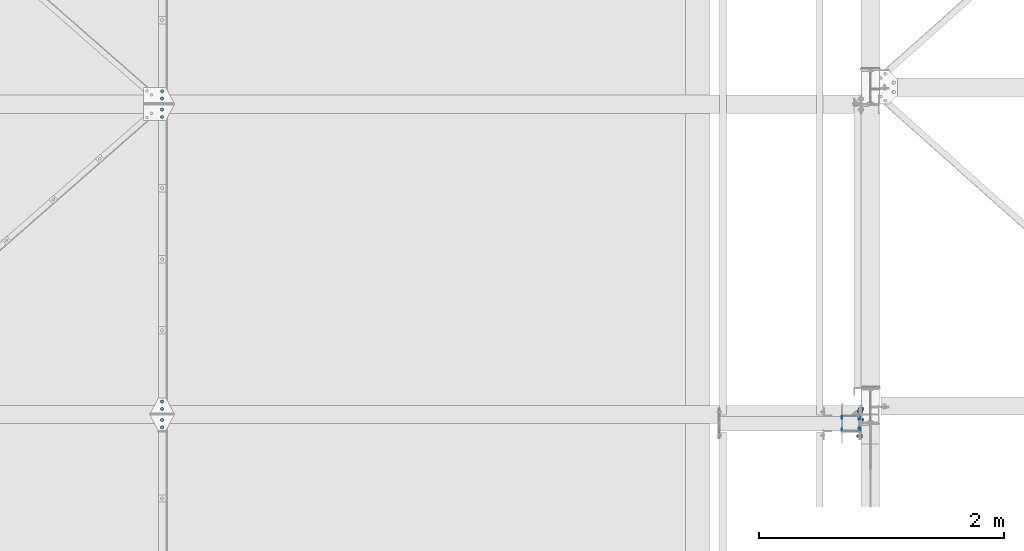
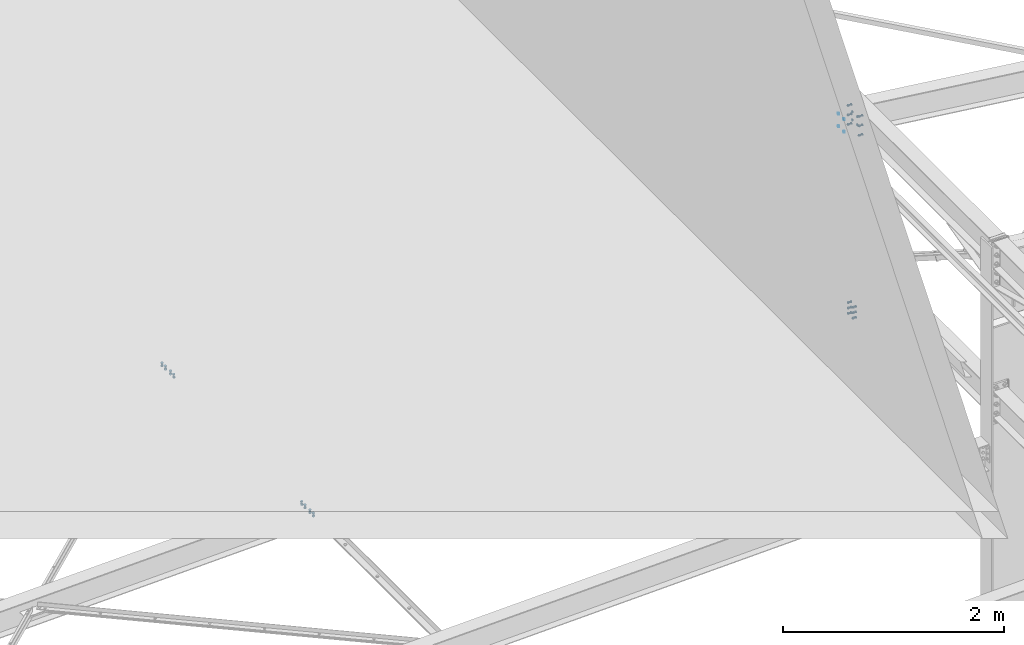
# One storey, part 95 of 3134: 9 mechanical fasteners, 6 elements without a shape of their own.
"""IFC2X3 building model written with IfcOpenShell, lengths in millimetres."""

from ifc_helpers import new_model, si_unit, frame, origin_with_axes, place, context, subcontext, project, spatial, faceted_brep, source, transform, mapped, material, type_object, element, aggregate, save


model = new_model("IFC2X3")

# Units and contexts
model_context = context("Model", 3, precision=1e-05, world=origin_with_axes())
body_context = subcontext(model_context, "Body", "Model", "MODEL_VIEW")
ifc_project = project(units=[si_unit("LENGTHUNIT", "METRE", prefix="MILLI"), si_unit("AREAUNIT", "SQUARE_METRE"), si_unit("VOLUMEUNIT", "CUBIC_METRE"), si_unit("MASSUNIT", "GRAM", prefix="KILO"), si_unit("TIMEUNIT", "SECOND"), si_unit("PLANEANGLEUNIT", "RADIAN"), si_unit("SOLIDANGLEUNIT", "STERADIAN"), si_unit("THERMODYNAMICTEMPERATUREUNIT", "DEGREE_CELSIUS"), si_unit("LUMINOUSINTENSITYUNIT", "LUMEN")], contexts=[model_context])

# Site, building, storey
site_placement = place(None, origin_with_axes())
site = spatial("IfcSite", under=ifc_project, at=site_placement, CompositionType="ELEMENT")
building_placement = place(site_placement, origin_with_axes())
building = spatial("IfcBuilding", under=site, at=building_placement, Name="Undefined", CompositionType="ELEMENT")
storey_placement = place(building_placement, origin_with_axes())
storey = spatial("IfcBuildingStorey", under=building, at=storey_placement, Name="Undefined", CompositionType="ELEMENT", Elevation=0.0)

# Assembly, mechanical fasteners
assembly_1_placement = place(storey_placement, origin_with_axes())
assembly_1 = element("IfcElementAssembly", 1, at=assembly_1_placement, inside=storey, AssemblyPlace="NOTDEFINED", PredefinedType="RIGID_FRAME")
ifc_material = material(Name="8.8")
mechanical_fastener_type = type_object("IfcMechanicalFastenerType", Name="Bolt assembly")
shared_shape_1 = source(origin_with_axes(), body_context, "Body", "Brep", [
    faceted_brep([(9.0, -3.46568413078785e-07, 0.0), (7.79422863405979, -3.46568413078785e-07, 4.50000000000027), (4.49999999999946, -3.46568413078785e-07, 7.79422863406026), (-9.3270238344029e-13, -3.46568413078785e-07, 9.0), (-4.50000000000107, -3.46568413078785e-07, 7.79422863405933), (-7.79422863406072, -3.46568413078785e-07, 4.49999999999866), (-9.0, -3.46568413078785e-07, -1.86540476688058e-12), (-7.79422863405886, -3.46568413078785e-07, -4.50000000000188), (-4.49999999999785, -3.46568413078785e-07, -7.79422863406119), (2.78811514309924e-12, -3.46568413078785e-07, -9.0), (4.50000000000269, -3.46568413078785e-07, -7.7942286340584), (7.79422863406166, -3.46568413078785e-07, -4.49999999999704), (7.79422863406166, 6.1, -4.49999999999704), (4.50000000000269, 6.1, -7.7942286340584), (2.78811514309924e-12, 6.1, -9.0), (-4.49999999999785, 6.1, -7.79422863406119), (-7.79422863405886, 6.1, -4.50000000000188), (-9.0, 6.1, -1.86540476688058e-12), (-7.79422863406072, 6.1, 4.49999999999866), (-4.50000000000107, 6.1, 7.79422863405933), (-9.3270238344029e-13, 6.1, 9.0), (4.49999999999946, 6.1, 7.79422863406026), (7.79422863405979, 6.1, 4.50000000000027), (9.0, 6.1, 0.0)], [[[0, 1, 2, 3, 4, 5, 6, 7, 8, 9, 10, 11]], [[12, 13, 14, 15, 16, 17, 18, 19, 20, 21, 22, 23]], [[0, 23, 22, 1]], [[1, 22, 21, 2]], [[2, 21, 20, 3]], [[3, 20, 19, 4]], [[4, 19, 18, 5]], [[5, 18, 17, 6]], [[6, 17, 16, 7]], [[7, 16, 15, 8]], [[8, 15, 14, 9]], [[9, 14, 13, 10]], [[10, 13, 12, 11]], [[11, 12, 23, 0]]]),
])
mechanical_fastener_1_placement = place(assembly_1_placement, frame((20615.0, 21956.5019072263, 5760.0), z_axis=(0.0, 0.0, 1.0), x_axis=(0.0, -1.0, 0.0)))
mechanical_fastener_1 = element("IfcMechanicalFastener", 2, at=mechanical_fastener_1_placement, type_object=mechanical_fastener_type, material=ifc_material, Name="Bolt assembly", NominalDiameter=16.0, NominalLength=6.0, context=body_context, shape_type="MappedRepresentation", body=[
    mapped(shared_shape_1, transform((0.0, 0.0, -70.0))),
    mapped(shared_shape_1, transform((100.0, 0.0, -70.0))),
    mapped(shared_shape_1, transform((0.0, 0.0, 70.0))),
    mapped(shared_shape_1, transform((100.0, 0.0, 70.0))),
])
shared_shape_2 = source(origin_with_axes(), body_context, "Body", "Brep", [
    faceted_brep([(11.0, 0.0, 0.0), (9.52627944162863, 0.0, 5.50000000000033), (5.49999999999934, 0.0, 9.5262794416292), (-1.13996957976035e-12, 0.0, 11.0), (-5.50000000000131, 0.0, 9.52627944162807), (-9.52627944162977, 0.0, 5.49999999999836), (-11.0, 0.0, -2.27993915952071e-12), (-9.5262794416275, 0.0, -5.5000000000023), (-5.49999999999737, 0.0, -9.52627944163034), (3.40769628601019e-12, 0.0, -11.0), (5.50000000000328, 0.0, -9.52627944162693), (9.52627944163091, 0.0, -5.49999999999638), (9.52627944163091, 10.1, -5.49999999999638), (5.50000000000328, 10.1, -9.52627944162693), (3.40769628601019e-12, 10.1, -11.0), (-5.49999999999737, 10.1, -9.52627944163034), (-9.5262794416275, 10.1, -5.5000000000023), (-11.0, 10.1, -2.27993915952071e-12), (-9.52627944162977, 10.1, 5.49999999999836), (-5.50000000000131, 10.1, 9.52627944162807), (-1.13996957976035e-12, 10.1, 11.0), (5.49999999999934, 10.1, 9.5262794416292), (9.52627944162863, 10.1, 5.50000000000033), (11.0, 10.1, 0.0)], [[[0, 1, 2, 3, 4, 5, 6, 7, 8, 9, 10, 11]], [[12, 13, 14, 15, 16, 17, 18, 19, 20, 21, 22, 23]], [[0, 23, 22, 1]], [[1, 22, 21, 2]], [[2, 21, 20, 3]], [[3, 20, 19, 4]], [[4, 19, 18, 5]], [[5, 18, 17, 6]], [[6, 17, 16, 7]], [[7, 16, 15, 8]], [[8, 15, 14, 9]], [[9, 14, 13, 10]], [[10, 13, 12, 11]], [[11, 12, 23, 0]]]),
])
mechanical_fastener_2_placement = place(assembly_1_placement, frame((20755.0, 21951.5019072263, 5760.0), z_axis=(0.0, 0.0, 1.0), x_axis=(0.0, -1.0, 0.0)))
mechanical_fastener_2 = element("IfcMechanicalFastener", 3, at=mechanical_fastener_2_placement, type_object=mechanical_fastener_type, material=ifc_material, Name="Bolt assembly", NominalDiameter=20.0, NominalLength=10.0, context=body_context, shape_type="MappedRepresentation", body=[
    mapped(shared_shape_2, transform((0.0, 0.0, -45.0))),
    mapped(shared_shape_2, transform((90.0, 0.0, -45.0))),
    mapped(shared_shape_2, transform((0.0, 0.0, 45.0))),
    mapped(shared_shape_2, transform((90.0, 0.0, 45.0))),
])
aggregate(assembly_1, [mechanical_fastener_2, mechanical_fastener_1])

# Assembly, mechanical fastener
assembly_2_placement = place(storey_placement, origin_with_axes())
assembly_2 = element("IfcElementAssembly", 4, at=assembly_2_placement, inside=storey, Name="300", AssemblyPlace="NOTDEFINED", PredefinedType="RIGID_FRAME")
shared_shape_3 = source(origin_with_axes(), body_context, "Body", "Brep", [
    faceted_brep([(13.856406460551, -30.0, 0.0), (6.92820323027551, -30.0, 12.0), (-6.92820323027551, -30.0, 12.0), (-13.856406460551, -30.0, 1.69692038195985e-15), (-6.92820323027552, -30.0, -12.0), (6.9282032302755, -30.0, -12.0), (6.9282032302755, -20.0, -12.0), (-6.92820323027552, -20.0, -12.0), (-13.856406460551, -20.0, 1.69692038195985e-15), (-6.92820323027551, -20.0, 12.0), (6.92820323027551, -20.0, 12.0), (13.856406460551, -20.0, 0.0), (8.0, -20.0, 0.0), (6.92820323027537, -20.0, 4.00000000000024), (3.99999999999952, -20.0, 6.92820323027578), (-8.29068785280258e-13, -20.0, 8.0), (-4.00000000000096, -20.0, 6.92820323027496), (-6.9282032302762, -20.0, 3.99999999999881), (-8.0, -20.0, -1.65813757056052e-12), (-6.92820323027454, -20.0, -4.00000000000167), (-3.99999999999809, -20.0, -6.92820323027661), (2.47832457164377e-12, -20.0, -8.0), (4.00000000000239, -20.0, -6.92820323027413), (6.92820323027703, -20.0, -3.99999999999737), (6.92820323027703, 20.0, -3.99999999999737), (4.00000000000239, 20.0, -6.92820323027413), (2.47832457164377e-12, 20.0, -8.0), (-3.99999999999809, 20.0, -6.92820323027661), (-6.92820323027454, 20.0, -4.00000000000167), (-8.0, 20.0, -1.65813757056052e-12), (-6.9282032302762, 20.0, 3.99999999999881), (-4.00000000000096, 20.0, 6.92820323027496), (-8.29068785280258e-13, 20.0, 8.0), (3.99999999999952, 20.0, 6.92820323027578), (6.92820323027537, 20.0, 4.00000000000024), (8.0, 20.0, 0.0), (13.856406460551, 0.0, 0.0), (6.92820323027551, 0.0, 12.0), (-6.92820323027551, 0.0, 12.0), (-13.856406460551, 0.0, 1.69692038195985e-15), (-6.92820323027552, 0.0, -12.0), (6.9282032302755, 0.0, -12.0), (6.9282032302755, 12.9999996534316, -12.0), (-6.92820323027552, 12.9999996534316, -12.0), (-13.856406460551, 12.9999996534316, 1.69692038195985e-15), (-6.92820323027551, 12.9999996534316, 12.0), (6.92820323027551, 12.9999996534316, 12.0), (13.856406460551, 12.9999996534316, 0.0)], [[[0, 1, 2, 3, 4, 5]], [[6, 7, 8, 9, 10, 11]], [[0, 11, 10, 1]], [[1, 10, 9, 2]], [[2, 9, 8, 3]], [[3, 8, 7, 4]], [[4, 7, 6, 5]], [[5, 6, 11, 0]], [[12, 13, 14, 15, 16, 17, 18, 19, 20, 21, 22, 23]], [[24, 25, 26, 27, 28, 29, 30, 31, 32, 33, 34, 35]], [[12, 35, 34, 13]], [[13, 34, 33, 14]], [[14, 33, 32, 15]], [[15, 32, 31, 16]], [[16, 31, 30, 17]], [[17, 30, 29, 18]], [[18, 29, 28, 19]], [[19, 28, 27, 20]], [[20, 27, 26, 21]], [[21, 26, 25, 22]], [[22, 25, 24, 23]], [[23, 24, 35, 12]], [[36, 37, 38, 39, 40, 41]], [[42, 43, 44, 45, 46, 47]], [[36, 47, 46, 37]], [[37, 46, 45, 38]], [[38, 45, 44, 39]], [[39, 44, 43, 40]], [[40, 43, 42, 41]], [[41, 42, 47, 36]]]),
    faceted_brep([(9.0, -10.1000003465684, 0.0), (7.79422863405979, -10.1000003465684, 4.50000000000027), (4.49999999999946, -10.1000003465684, 7.79422863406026), (-9.3270238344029e-13, -10.1000003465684, 9.0), (-4.50000000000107, -10.1000003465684, 7.79422863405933), (-7.79422863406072, -10.1000003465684, 4.49999999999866), (-9.0, -10.1000003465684, -1.86540476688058e-12), (-7.79422863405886, -10.1000003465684, -4.50000000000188), (-4.49999999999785, -10.1000003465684, -7.79422863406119), (2.78811514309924e-12, -10.1000003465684, -9.0), (4.50000000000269, -10.1000003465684, -7.7942286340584), (7.79422863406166, -10.1000003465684, -4.49999999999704), (7.79422863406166, -3.46568413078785e-07, -4.49999999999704), (4.50000000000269, -3.46568413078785e-07, -7.7942286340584), (2.78811514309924e-12, -3.46568413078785e-07, -9.0), (-4.49999999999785, -3.46568413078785e-07, -7.79422863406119), (-7.79422863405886, -3.46568413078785e-07, -4.50000000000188), (-9.0, -3.46568413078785e-07, -1.86540476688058e-12), (-7.79422863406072, -3.46568413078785e-07, 4.49999999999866), (-4.50000000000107, -3.46568413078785e-07, 7.79422863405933), (-9.3270238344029e-13, -3.46568413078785e-07, 9.0), (4.49999999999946, -3.46568413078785e-07, 7.79422863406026), (7.79422863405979, -3.46568413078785e-07, 4.50000000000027), (9.0, -3.46568413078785e-07, 0.0), (9.0, -19.9, 0.0), (7.79422863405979, -19.9, 4.50000000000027), (4.49999999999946, -19.9, 7.79422863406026), (-9.3270238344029e-13, -19.9, 9.0), (-4.50000000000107, -19.9, 7.79422863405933), (-7.79422863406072, -19.9, 4.49999999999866), (-9.0, -19.9, -1.86540476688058e-12), (-7.79422863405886, -19.9, -4.50000000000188), (-4.49999999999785, -19.9, -7.79422863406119), (2.78811514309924e-12, -19.9, -9.0), (4.50000000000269, -19.9, -7.7942286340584), (7.79422863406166, -19.9, -4.49999999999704), (7.79422863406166, -9.89999997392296, -4.49999999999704), (4.50000000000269, -9.89999997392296, -7.7942286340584), (2.78811514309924e-12, -9.89999997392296, -9.0), (-4.49999999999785, -9.89999997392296, -7.79422863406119), (-7.79422863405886, -9.89999997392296, -4.50000000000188), (-9.0, -9.89999997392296, -1.86540476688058e-12), (-7.79422863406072, -9.89999997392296, 4.49999999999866), (-4.50000000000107, -9.89999997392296, 7.79422863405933), (-9.3270238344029e-13, -9.89999997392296, 9.0), (4.49999999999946, -9.89999997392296, 7.79422863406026), (7.79422863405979, -9.89999997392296, 4.50000000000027), (9.0, -9.89999997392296, 0.0)], [[[0, 1, 2, 3, 4, 5, 6, 7, 8, 9, 10, 11]], [[12, 13, 14, 15, 16, 17, 18, 19, 20, 21, 22, 23]], [[0, 23, 22, 1]], [[1, 22, 21, 2]], [[2, 21, 20, 3]], [[3, 20, 19, 4]], [[4, 19, 18, 5]], [[5, 18, 17, 6]], [[6, 17, 16, 7]], [[7, 16, 15, 8]], [[8, 15, 14, 9]], [[9, 14, 13, 10]], [[10, 13, 12, 11]], [[11, 12, 23, 0]], [[24, 25, 26, 27, 28, 29, 30, 31, 32, 33, 34, 35]], [[36, 37, 38, 39, 40, 41, 42, 43, 44, 45, 46, 47]], [[24, 47, 46, 25]], [[25, 46, 45, 26]], [[26, 45, 44, 27]], [[27, 44, 43, 28]], [[28, 43, 42, 29]], [[29, 42, 41, 30]], [[30, 41, 40, 31]], [[31, 40, 39, 32]], [[32, 39, 38, 33]], [[33, 38, 37, 34]], [[34, 37, 36, 35]], [[35, 36, 47, 24]]]),
])
mechanical_fastener_3_placement = place(assembly_2_placement, frame((20755.0, 21906.5019072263, 5846.5), z_axis=(0.0, 1.0, 0.0), x_axis=(0.0, 0.0, -1.0)))
mechanical_fastener_3 = element("IfcMechanicalFastener", 5, at=mechanical_fastener_3_placement, type_object=mechanical_fastener_type, material=ifc_material, Name="Bolt assembly", NominalDiameter=16.0, NominalLength=40.0, context=body_context, shape_type="MappedRepresentation", body=[
    mapped(shared_shape_3, transform((0.0, 0.0, -100.0))),
    mapped(shared_shape_3, transform((105.0, 0.0, -100.0))),
    mapped(shared_shape_3, transform((210.0, 0.0, -100.0))),
    mapped(shared_shape_3, transform((0.0, 0.0, 100.0))),
    mapped(shared_shape_3, transform((105.0, 0.0, 100.0))),
    mapped(shared_shape_3, transform((210.0, 0.0, 100.0))),
])
aggregate(assembly_2, [mechanical_fastener_3])

# Assembly, mechanical fasteners
assembly_3_placement = place(storey_placement, origin_with_axes())
assembly_3 = element("IfcElementAssembly", 6, at=assembly_3_placement, inside=storey, Name="300", AssemblyPlace="NOTDEFINED", PredefinedType="RIGID_FRAME")
shared_shape_4 = source(origin_with_axes(), body_context, "Body", "Brep", [
    faceted_brep([(13.856406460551, -21.0000017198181, 0.0), (6.92820323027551, -21.0000017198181, 12.0), (-6.92820323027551, -21.0000017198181, 12.0), (-13.856406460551, -21.0000017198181, 1.69692038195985e-15), (-6.92820323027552, -21.0000017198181, -12.0), (6.9282032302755, -21.0000017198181, -12.0), (6.9282032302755, -11.0000017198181, -12.0), (-6.92820323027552, -11.0000017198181, -12.0), (-13.856406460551, -11.0000017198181, 1.69692038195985e-15), (-6.92820323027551, -11.0000017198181, 12.0), (6.92820323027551, -11.0000017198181, 12.0), (13.856406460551, -11.0000017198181, 0.0), (8.0, -11.0000017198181, 0.0), (6.92820323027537, -11.0000017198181, 4.00000000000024), (3.99999999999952, -11.0000017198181, 6.92820323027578), (-8.29068785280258e-13, -11.0000017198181, 8.0), (-4.00000000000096, -11.0000017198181, 6.92820323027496), (-6.9282032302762, -11.0000017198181, 3.99999999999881), (-8.0, -11.0000017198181, -1.65813757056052e-12), (-6.92820323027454, -11.0000017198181, -4.00000000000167), (-3.99999999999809, -11.0000017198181, -6.92820323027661), (2.47832457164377e-12, -11.0000017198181, -8.0), (4.00000000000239, -11.0000017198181, -6.92820323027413), (6.92820323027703, -11.0000017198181, -3.99999999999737), (6.92820323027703, 29.0, -3.99999999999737), (4.00000000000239, 29.0, -6.92820323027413), (2.47832457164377e-12, 29.0, -8.0), (-3.99999999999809, 29.0, -6.92820323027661), (-6.92820323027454, 29.0, -4.00000000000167), (-8.0, 29.0, -1.65813757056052e-12), (-6.9282032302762, 29.0, 3.99999999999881), (-4.00000000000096, 29.0, 6.92820323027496), (-8.29068785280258e-13, 29.0, 8.0), (3.99999999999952, 29.0, 6.92820323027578), (6.92820323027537, 29.0, 4.00000000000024), (8.0, 29.0, 0.0), (13.856406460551, 10.9999982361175, 0.0), (6.92820323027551, 10.9999982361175, 12.0), (-6.92820323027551, 10.9999982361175, 12.0), (-13.856406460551, 10.9999982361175, 1.69692038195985e-15), (-6.92820323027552, 10.9999982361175, -12.0), (6.9282032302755, 10.9999982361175, -12.0), (6.9282032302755, 23.9999999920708, -12.0), (-6.92820323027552, 23.9999999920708, -12.0), (-13.856406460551, 23.9999999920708, 1.69692038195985e-15), (-6.92820323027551, 23.9999999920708, 12.0), (6.92820323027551, 23.9999999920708, 12.0), (13.856406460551, 23.9999999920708, 0.0)], [[[0, 1, 2, 3, 4, 5]], [[6, 7, 8, 9, 10, 11]], [[0, 11, 10, 1]], [[1, 10, 9, 2]], [[2, 9, 8, 3]], [[3, 8, 7, 4]], [[4, 7, 6, 5]], [[5, 6, 11, 0]], [[12, 13, 14, 15, 16, 17, 18, 19, 20, 21, 22, 23]], [[24, 25, 26, 27, 28, 29, 30, 31, 32, 33, 34, 35]], [[12, 35, 34, 13]], [[13, 34, 33, 14]], [[14, 33, 32, 15]], [[15, 32, 31, 16]], [[16, 31, 30, 17]], [[17, 30, 29, 18]], [[18, 29, 28, 19]], [[19, 28, 27, 20]], [[20, 27, 26, 21]], [[21, 26, 25, 22]], [[22, 25, 24, 23]], [[23, 24, 35, 12]], [[36, 37, 38, 39, 40, 41]], [[42, 43, 44, 45, 46, 47]], [[36, 47, 46, 37]], [[37, 46, 45, 38]], [[38, 45, 44, 39]], [[39, 44, 43, 40]], [[40, 43, 42, 41]], [[41, 42, 47, 36]]]),
    faceted_brep([(9.0, -10.9000017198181, 0.0), (7.79422863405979, -10.9000017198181, 4.50000000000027), (4.49999999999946, -10.9000017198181, 7.79422863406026), (-9.3270238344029e-13, -10.9000017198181, 9.0), (-4.50000000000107, -10.9000017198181, 7.79422863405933), (-7.79422863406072, -10.9000017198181, 4.49999999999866), (-9.0, -10.9000017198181, -1.86540476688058e-12), (-7.79422863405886, -10.9000017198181, -4.50000000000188), (-4.49999999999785, -10.9000017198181, -7.79422863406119), (2.78811514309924e-12, -10.9000017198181, -9.0), (4.50000000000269, -10.9000017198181, -7.7942286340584), (7.79422863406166, -10.9000017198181, -4.49999999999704), (7.79422863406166, -3.9, -4.49999999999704), (4.50000000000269, -3.9, -7.7942286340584), (2.78811514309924e-12, -3.9, -9.0), (-4.49999999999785, -3.9, -7.79422863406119), (-7.79422863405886, -3.9, -4.50000000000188), (-9.0, -3.9, -1.86540476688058e-12), (-7.79422863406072, -3.9, 4.49999999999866), (-4.50000000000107, -3.9, 7.79422863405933), (-9.3270238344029e-13, -3.9, 9.0), (4.49999999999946, -3.9, 7.79422863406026), (7.79422863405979, -3.9, 4.50000000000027), (9.0, -3.9, 0.0), (9.0, -3.99999624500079, 0.0), (7.79422863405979, -3.99999624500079, 4.50000000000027), (4.49999999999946, -3.99999624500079, 7.79422863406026), (-9.3270238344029e-13, -3.99999624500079, 9.0), (-4.50000000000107, -3.99999624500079, 7.79422863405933), (-7.79422863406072, -3.99999624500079, 4.49999999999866), (-9.0, -3.99999624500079, -1.86540476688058e-12), (-7.79422863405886, -3.99999624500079, -4.50000000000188), (-4.49999999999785, -3.99999624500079, -7.79422863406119), (2.78811514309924e-12, -3.99999624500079, -9.0), (4.50000000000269, -3.99999624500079, -7.7942286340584), (7.79422863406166, -3.99999624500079, -4.49999999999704), (7.79422863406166, 4.00000375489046, -4.49999999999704), (4.50000000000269, 4.00000375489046, -7.7942286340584), (2.78811514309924e-12, 4.00000375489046, -9.0), (-4.49999999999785, 4.00000375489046, -7.79422863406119), (-7.79422863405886, 4.00000375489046, -4.50000000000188), (-9.0, 4.00000375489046, -1.86540476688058e-12), (-7.79422863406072, 4.00000375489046, 4.49999999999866), (-4.50000000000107, 4.00000375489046, 7.79422863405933), (-9.3270238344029e-13, 4.00000375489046, 9.0), (4.49999999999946, 4.00000375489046, 7.79422863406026), (7.79422863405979, 4.00000375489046, 4.50000000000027), (9.0, 4.00000375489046, 0.0), (9.0, 3.9, 0.0), (7.79422863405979, 3.9, 4.50000000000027), (4.49999999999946, 3.9, 7.79422863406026), (-9.3270238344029e-13, 3.9, 9.0), (-4.50000000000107, 3.9, 7.79422863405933), (-7.79422863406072, 3.9, 4.49999999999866), (-9.0, 3.9, -1.86540476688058e-12), (-7.79422863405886, 3.9, -4.50000000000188), (-4.49999999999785, 3.9, -7.79422863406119), (2.78811514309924e-12, 3.9, -9.0), (4.50000000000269, 3.9, -7.7942286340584), (7.79422863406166, 3.9, -4.49999999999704), (7.79422863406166, 10.9999982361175, -4.49999999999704), (4.50000000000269, 10.9999982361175, -7.7942286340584), (2.78811514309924e-12, 10.9999982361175, -9.0), (-4.49999999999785, 10.9999982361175, -7.79422863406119), (-7.79422863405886, 10.9999982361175, -4.50000000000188), (-9.0, 10.9999982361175, -1.86540476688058e-12), (-7.79422863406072, 10.9999982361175, 4.49999999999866), (-4.50000000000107, 10.9999982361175, 7.79422863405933), (-9.3270238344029e-13, 10.9999982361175, 9.0), (4.49999999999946, 10.9999982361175, 7.79422863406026), (7.79422863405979, 10.9999982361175, 4.50000000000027), (9.0, 10.9999982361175, 0.0)], [[[0, 1, 2, 3, 4, 5, 6, 7, 8, 9, 10, 11]], [[12, 13, 14, 15, 16, 17, 18, 19, 20, 21, 22, 23]], [[0, 23, 22, 1]], [[1, 22, 21, 2]], [[2, 21, 20, 3]], [[3, 20, 19, 4]], [[4, 19, 18, 5]], [[5, 18, 17, 6]], [[6, 17, 16, 7]], [[7, 16, 15, 8]], [[8, 15, 14, 9]], [[9, 14, 13, 10]], [[10, 13, 12, 11]], [[11, 12, 23, 0]], [[24, 25, 26, 27, 28, 29, 30, 31, 32, 33, 34, 35]], [[36, 37, 38, 39, 40, 41, 42, 43, 44, 45, 46, 47]], [[24, 47, 46, 25]], [[25, 46, 45, 26]], [[26, 45, 44, 27]], [[27, 44, 43, 28]], [[28, 43, 42, 29]], [[29, 42, 41, 30]], [[30, 41, 40, 31]], [[31, 40, 39, 32]], [[32, 39, 38, 33]], [[33, 38, 37, 34]], [[34, 37, 36, 35]], [[35, 36, 47, 24]], [[48, 49, 50, 51, 52, 53, 54, 55, 56, 57, 58, 59]], [[60, 61, 62, 63, 64, 65, 66, 67, 68, 69, 70, 71]], [[48, 71, 70, 49]], [[49, 70, 69, 50]], [[50, 69, 68, 51]], [[51, 68, 67, 52]], [[52, 67, 66, 53]], [[53, 66, 65, 54]], [[54, 65, 64, 55]], [[55, 64, 63, 56]], [[56, 63, 62, 57]], [[57, 62, 61, 58]], [[58, 61, 60, 59]], [[59, 60, 71, 48]]]),
])
mechanical_fastener_4_placement = place(assembly_3_placement, frame((15072.5010771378, 24557.5, 3386.35293760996), z_axis=(-0.999519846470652, 0.0, -0.0309851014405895), x_axis=(0.0, 1.0, 0.0)))
mechanical_fastener_4 = element("IfcMechanicalFastener", 7, at=mechanical_fastener_4_placement, type_object=mechanical_fastener_type, material=ifc_material, Name="Bolt assembly", NominalDiameter=16.0, NominalLength=40.0, context=body_context, shape_type="MappedRepresentation", body=[
    mapped(shared_shape_4, transform((0.0, 0.0, 0.0))),
    mapped(shared_shape_4, transform((59.9999999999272, 0.0, 5.40239852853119e-10))),
])
mechanical_fastener_5_placement = place(assembly_3_placement, frame((15072.5010771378, 24467.499366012, 3386.35293760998), z_axis=(0.999519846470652, 0.0, 0.0309851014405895), x_axis=(0.0, -1.0, 0.0)))
mechanical_fastener_5 = element("IfcMechanicalFastener", 8, at=mechanical_fastener_5_placement, type_object=mechanical_fastener_type, material=ifc_material, Name="Bolt assembly", NominalDiameter=16.0, NominalLength=40.0, context=body_context, shape_type="MappedRepresentation", body=[
    mapped(shared_shape_4, transform((0.0, 0.0, 0.0))),
    mapped(shared_shape_4, transform((59.9999999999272, 0.0, 5.40239852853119e-10))),
])
aggregate(assembly_3, [mechanical_fastener_4, mechanical_fastener_5])

assembly_4_placement = place(storey_placement, origin_with_axes())
assembly_4 = element("IfcElementAssembly", 9, at=assembly_4_placement, inside=storey, Name="300", AssemblyPlace="NOTDEFINED", PredefinedType="RIGID_FRAME")
mechanical_fastener_6_placement = place(assembly_4_placement, frame((15072.5010771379, 21936.25, 3386.35293761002), z_axis=(0.999519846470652, 0.0, 0.0309851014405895), x_axis=(0.0, -1.0, 0.0)))
mechanical_fastener_6 = element("IfcMechanicalFastener", 10, at=mechanical_fastener_6_placement, type_object=mechanical_fastener_type, material=ifc_material, Name="Bolt assembly", NominalDiameter=16.0, NominalLength=40.0, context=body_context, shape_type="MappedRepresentation", body=[
    mapped(shared_shape_4, transform((0.0, 0.0, 0.0))),
    mapped(shared_shape_4, transform((59.9999999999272, 0.0, 5.40239852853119e-10))),
])
mechanical_fastener_7_placement = place(assembly_4_placement, frame((15072.5010771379, 22026.25, 3386.35293761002), z_axis=(-0.999519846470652, 0.0, -0.0309851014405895), x_axis=(0.0, 1.0, 0.0)))
mechanical_fastener_7 = element("IfcMechanicalFastener", 11, at=mechanical_fastener_7_placement, type_object=mechanical_fastener_type, material=ifc_material, Name="Bolt assembly", NominalDiameter=16.0, NominalLength=40.0, context=body_context, shape_type="MappedRepresentation", body=[
    mapped(shared_shape_4, transform((0.0, 0.0, 0.0))),
    mapped(shared_shape_4, transform((59.9999999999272, 0.0, 5.40239852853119e-10))),
])
aggregate(assembly_4, [mechanical_fastener_6, mechanical_fastener_7])

# Assembly, mechanical fastener
assembly_5_placement = place(storey_placement, origin_with_axes())
assembly_5 = element("IfcElementAssembly", 12, at=assembly_5_placement, inside=storey, AssemblyPlace="NOTDEFINED", PredefinedType="RIGID_FRAME")
shared_shape_5 = source(origin_with_axes(), body_context, "Body", "Brep", [
    faceted_brep([(13.856406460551, -19.0, 0.0), (6.92820323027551, -19.0, 12.0), (-6.92820323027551, -19.0, 12.0), (-13.856406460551, -19.0, 1.69692038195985e-15), (-6.92820323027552, -19.0, -12.0), (6.9282032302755, -19.0, -12.0), (6.9282032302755, -9.0, -12.0), (-6.92820323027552, -9.0, -12.0), (-13.856406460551, -9.0, 1.69692038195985e-15), (-6.92820323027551, -9.0, 12.0), (6.92820323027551, -9.0, 12.0), (13.856406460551, -9.0, 0.0), (8.0, -9.0, 0.0), (6.92820323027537, -9.0, 4.00000000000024), (3.99999999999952, -9.0, 6.92820323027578), (-8.29068785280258e-13, -9.0, 8.0), (-4.00000000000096, -9.0, 6.92820323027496), (-6.9282032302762, -9.0, 3.99999999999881), (-8.0, -9.0, -1.65813757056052e-12), (-6.92820323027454, -9.0, -4.00000000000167), (-3.99999999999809, -9.0, -6.92820323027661), (2.47832457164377e-12, -9.0, -8.0), (4.00000000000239, -9.0, -6.92820323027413), (6.92820323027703, -9.0, -3.99999999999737), (6.92820323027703, 26.0, -3.99999999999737), (4.00000000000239, 26.0, -6.92820323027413), (2.47832457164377e-12, 26.0, -8.0), (-3.99999999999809, 26.0, -6.92820323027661), (-6.92820323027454, 26.0, -4.00000000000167), (-8.0, 26.0, -1.65813757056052e-12), (-6.9282032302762, 26.0, 3.99999999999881), (-4.00000000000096, 26.0, 6.92820323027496), (-8.29068785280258e-13, 26.0, 8.0), (3.99999999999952, 26.0, 6.92820323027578), (6.92820323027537, 26.0, 4.00000000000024), (8.0, 26.0, 0.0), (13.856406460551, 7.0, 0.0), (6.92820323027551, 7.0, 12.0), (-6.92820323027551, 7.0, 12.0), (-13.856406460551, 7.0, 1.69692038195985e-15), (-6.92820323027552, 7.0, -12.0), (6.9282032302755, 7.0, -12.0), (6.9282032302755, 20.0, -12.0), (-6.92820323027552, 20.0, -12.0), (-13.856406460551, 20.0, 1.69692038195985e-15), (-6.92820323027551, 20.0, 12.0), (6.92820323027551, 20.0, 12.0), (13.856406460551, 20.0, 0.0)], [[[0, 1, 2, 3, 4, 5]], [[6, 7, 8, 9, 10, 11]], [[0, 11, 10, 1]], [[1, 10, 9, 2]], [[2, 9, 8, 3]], [[3, 8, 7, 4]], [[4, 7, 6, 5]], [[5, 6, 11, 0]], [[12, 13, 14, 15, 16, 17, 18, 19, 20, 21, 22, 23]], [[24, 25, 26, 27, 28, 29, 30, 31, 32, 33, 34, 35]], [[12, 35, 34, 13]], [[13, 34, 33, 14]], [[14, 33, 32, 15]], [[15, 32, 31, 16]], [[16, 31, 30, 17]], [[17, 30, 29, 18]], [[18, 29, 28, 19]], [[19, 28, 27, 20]], [[20, 27, 26, 21]], [[21, 26, 25, 22]], [[22, 25, 24, 23]], [[23, 24, 35, 12]], [[36, 37, 38, 39, 40, 41]], [[42, 43, 44, 45, 46, 47]], [[36, 47, 46, 37]], [[37, 46, 45, 38]], [[38, 45, 44, 39]], [[39, 44, 43, 40]], [[40, 43, 42, 41]], [[41, 42, 47, 36]]]),
    faceted_brep([(9.0, -8.9, 0.0), (7.79422863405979, -8.9, 4.50000000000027), (4.49999999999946, -8.9, 7.79422863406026), (-9.3270238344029e-13, -8.9, 9.0), (-4.50000000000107, -8.9, 7.79422863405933), (-7.79422863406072, -8.9, 4.49999999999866), (-9.0, -8.9, -1.86540476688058e-12), (-7.79422863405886, -8.9, -4.50000000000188), (-4.49999999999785, -8.9, -7.79422863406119), (2.78811514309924e-12, -8.9, -9.0), (4.50000000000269, -8.9, -7.7942286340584), (7.79422863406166, -8.9, -4.49999999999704), (7.79422863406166, 0.100000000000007, -4.49999999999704), (4.50000000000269, 0.100000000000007, -7.7942286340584), (2.78811514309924e-12, 0.100000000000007, -9.0), (-4.49999999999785, 0.100000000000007, -7.79422863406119), (-7.79422863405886, 0.100000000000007, -4.50000000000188), (-9.0, 0.100000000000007, -1.86540476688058e-12), (-7.79422863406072, 0.100000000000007, 4.49999999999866), (-4.50000000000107, 0.100000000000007, 7.79422863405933), (-9.3270238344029e-13, 0.100000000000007, 9.0), (4.49999999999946, 0.100000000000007, 7.79422863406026), (7.79422863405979, 0.100000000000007, 4.50000000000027), (9.0, 0.100000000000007, 0.0), (9.0, -0.1, 0.0), (7.79422863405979, -0.1, 4.50000000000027), (4.49999999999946, -0.1, 7.79422863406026), (-9.3270238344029e-13, -0.1, 9.0), (-4.50000000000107, -0.1, 7.79422863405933), (-7.79422863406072, -0.1, 4.49999999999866), (-9.0, -0.1, -1.86540476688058e-12), (-7.79422863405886, -0.1, -4.50000000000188), (-4.49999999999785, -0.1, -7.79422863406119), (2.78811514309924e-12, -0.1, -9.0), (4.50000000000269, -0.1, -7.7942286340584), (7.79422863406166, -0.1, -4.49999999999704), (7.79422863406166, 7.0, -4.49999999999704), (4.50000000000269, 7.0, -7.7942286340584), (2.78811514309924e-12, 7.0, -9.0), (-4.49999999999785, 7.0, -7.79422863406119), (-7.79422863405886, 7.0, -4.50000000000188), (-9.0, 7.0, -1.86540476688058e-12), (-7.79422863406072, 7.0, 4.49999999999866), (-4.50000000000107, 7.0, 7.79422863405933), (-9.3270238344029e-13, 7.0, 9.0), (4.49999999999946, 7.0, 7.79422863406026), (7.79422863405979, 7.0, 4.50000000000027), (9.0, 7.0, 0.0)], [[[0, 1, 2, 3, 4, 5, 6, 7, 8, 9, 10, 11]], [[12, 13, 14, 15, 16, 17, 18, 19, 20, 21, 22, 23]], [[0, 23, 22, 1]], [[1, 22, 21, 2]], [[2, 21, 20, 3]], [[3, 20, 19, 4]], [[4, 19, 18, 5]], [[5, 18, 17, 6]], [[6, 17, 16, 7]], [[7, 16, 15, 8]], [[8, 15, 14, 9]], [[9, 14, 13, 10]], [[10, 13, 12, 11]], [[11, 12, 23, 0]], [[24, 25, 26, 27, 28, 29, 30, 31, 32, 33, 34, 35]], [[36, 37, 38, 39, 40, 41, 42, 43, 44, 45, 46, 47]], [[24, 47, 46, 25]], [[25, 46, 45, 26]], [[26, 45, 44, 27]], [[27, 44, 43, 28]], [[28, 43, 42, 29]], [[29, 42, 41, 30]], [[30, 41, 40, 31]], [[31, 40, 39, 32]], [[32, 39, 38, 33]], [[33, 38, 37, 34]], [[34, 37, 36, 35]], [[35, 36, 47, 24]]]),
])
mechanical_fastener_8_placement = place(assembly_5_placement, frame((20774.0000000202, 21938.21, 3648.83272487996), z_axis=(0.0, 1.0, 0.0), x_axis=(0.0, 0.0, -1.0)))
mechanical_fastener_8 = element("IfcMechanicalFastener", 13, at=mechanical_fastener_8_placement, type_object=mechanical_fastener_type, material=ifc_material, Name="Bolt assembly", NominalDiameter=16.0, NominalLength=35.0, context=body_context, shape_type="MappedRepresentation", body=[
    mapped(shared_shape_5, transform((0.0, 0.0, 0.0))),
    mapped(shared_shape_5, transform((59.9999999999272, 0.0, 5.40239852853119e-10))),
    mapped(shared_shape_5, transform((120.0, 0.0, 0.0))),
])
aggregate(assembly_5, [mechanical_fastener_8])

assembly_6_placement = place(storey_placement, origin_with_axes())
assembly_6 = element("IfcElementAssembly", 14, at=assembly_6_placement, inside=storey, AssemblyPlace="NOTDEFINED", PredefinedType="RIGID_FRAME")
mechanical_fastener_9_placement = place(assembly_6_placement, frame((20774.0000000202, 22024.29, 3648.83272487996), z_axis=(0.0, 1.0, 0.0), x_axis=(0.0, 0.0, -1.0)))
mechanical_fastener_9 = element("IfcMechanicalFastener", 15, at=mechanical_fastener_9_placement, type_object=mechanical_fastener_type, material=ifc_material, Name="Bolt assembly", NominalDiameter=16.0, NominalLength=35.0, context=body_context, shape_type="MappedRepresentation", body=[
    mapped(shared_shape_5, transform((0.0, 0.0, 0.0))),
    mapped(shared_shape_5, transform((59.9999999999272, 0.0, 5.40239852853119e-10))),
    mapped(shared_shape_5, transform((120.0, 0.0, 0.0))),
])
aggregate(assembly_6, [mechanical_fastener_9])

save(model, "model.ifc")
